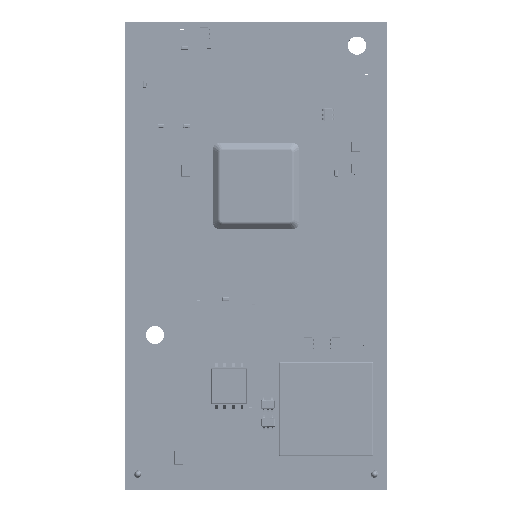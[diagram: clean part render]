
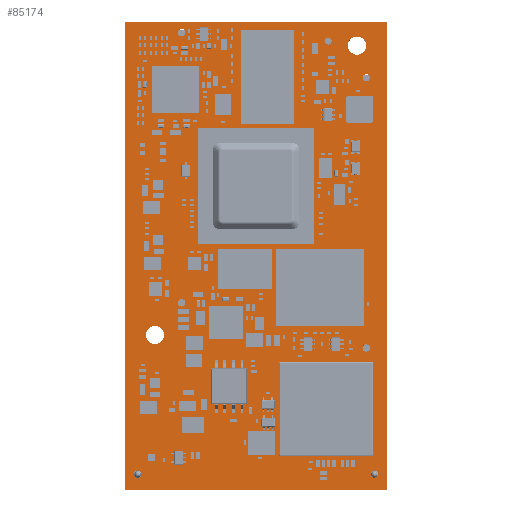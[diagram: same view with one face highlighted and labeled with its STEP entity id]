
A CAD part, top view. The second image highlights one B-rep face of the part: STEP entity #85174.
In plain terms, the highlighted planar face has unit normal (0, 0, 1).
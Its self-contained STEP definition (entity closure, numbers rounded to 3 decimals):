
#85174=ADVANCED_FACE('',(#163145,#163146,#163147,#163148,#163149,#163150,#163151,#163152,#163153),#163154,.T.);
#163145=FACE_OUTER_BOUND('',#266767,.T.);
#163146=FACE_BOUND('',#266768,.T.);
#163147=FACE_BOUND('',#266769,.T.);
#163148=FACE_BOUND('',#266770,.T.);
#163149=FACE_BOUND('',#266771,.T.);
#163150=FACE_BOUND('',#266772,.T.);
#163151=FACE_BOUND('',#266773,.T.);
#163152=FACE_BOUND('',#266774,.T.);
#163153=FACE_BOUND('',#266775,.T.);
#163154=PLANE('',#266776);
#266767=EDGE_LOOP('',(#440456,#440457,#440458,#440459));
#266768=EDGE_LOOP('',(#440460));
#266769=EDGE_LOOP('',(#440461));
#266770=EDGE_LOOP('',(#440462));
#266771=EDGE_LOOP('',(#440463));
#266772=EDGE_LOOP('',(#440464));
#266773=EDGE_LOOP('',(#440465));
#266774=EDGE_LOOP('',(#440466));
#266775=EDGE_LOOP('',(#440467));
#266776=AXIS2_PLACEMENT_3D('',#440468,#440469,#440470);
#440456=ORIENTED_EDGE('',*,*,#498036,.T.);
#440457=ORIENTED_EDGE('',*,*,#498037,.T.);
#440458=ORIENTED_EDGE('',*,*,#498038,.T.);
#440459=ORIENTED_EDGE('',*,*,#498039,.T.);
#440460=ORIENTED_EDGE('',*,*,#498040,.T.);
#440461=ORIENTED_EDGE('',*,*,#498041,.T.);
#440462=ORIENTED_EDGE('',*,*,#498042,.T.);
#440463=ORIENTED_EDGE('',*,*,#498043,.T.);
#440464=ORIENTED_EDGE('',*,*,#498044,.T.);
#440465=ORIENTED_EDGE('',*,*,#498045,.T.);
#440466=ORIENTED_EDGE('',*,*,#498034,.T.);
#440467=ORIENTED_EDGE('',*,*,#498031,.T.);
#440468=CARTESIAN_POINT('',(19.5,34.75,1.565));
#440469=DIRECTION('',(0.,0.,1.0));
#440470=DIRECTION('',(1.0,-0.0,0.));
#498031=EDGE_CURVE('',#580800,#580800,#580801,.T.);
#498034=EDGE_CURVE('',#580805,#580805,#580806,.T.);
#498036=EDGE_CURVE('',#580808,#580809,#580810,.T.);
#498037=EDGE_CURVE('',#580809,#580811,#580812,.T.);
#498038=EDGE_CURVE('',#580811,#580813,#580814,.T.);
#498039=EDGE_CURVE('',#580813,#580808,#580815,.T.);
#498040=EDGE_CURVE('',#580816,#580816,#580817,.T.);
#498041=EDGE_CURVE('',#580818,#580818,#580819,.T.);
#498042=EDGE_CURVE('',#580820,#580820,#580821,.T.);
#498043=EDGE_CURVE('',#580822,#580822,#580823,.T.);
#498044=EDGE_CURVE('',#580824,#580824,#580825,.T.);
#498045=EDGE_CURVE('',#580826,#580826,#580827,.T.);
#580800=VERTEX_POINT('',#696608);
#580801=CIRCLE('',#696609,1.35);
#580805=VERTEX_POINT('',#696613);
#580806=CIRCLE('',#696614,1.35);
#580808=VERTEX_POINT('',#696616);
#580809=VERTEX_POINT('',#696617);
#580810=LINE('',#696618,#696619);
#580811=VERTEX_POINT('',#696620);
#580812=LINE('',#696621,#696622);
#580813=VERTEX_POINT('',#696623);
#580814=LINE('',#696624,#696625);
#580815=LINE('',#696626,#696627);
#580816=VERTEX_POINT('',#696628);
#580817=CIRCLE('',#696629,0.55);
#580818=VERTEX_POINT('',#696630);
#580819=CIRCLE('',#696631,0.55);
#580820=VERTEX_POINT('',#696632);
#580821=CIRCLE('',#696633,0.55);
#580822=VERTEX_POINT('',#696634);
#580823=CIRCLE('',#696635,0.55);
#580824=VERTEX_POINT('',#696636);
#580825=CIRCLE('',#696637,0.55);
#580826=VERTEX_POINT('',#696638);
#580827=CIRCLE('',#696639,0.55);
#696608=CARTESIAN_POINT('',(33.15,66.0,1.565));
#696609=AXIS2_PLACEMENT_3D('',#748839,#748840,#748841);
#696613=CARTESIAN_POINT('',(3.15,23.0,1.565));
#696614=AXIS2_PLACEMENT_3D('',#748845,#748846,#748847);
#696616=CARTESIAN_POINT('',(0.,0.,1.565));
#696617=CARTESIAN_POINT('',(39.0,0.,1.565));
#696618=CARTESIAN_POINT('',(19.5,0.,1.565));
#696619=VECTOR('',#748848,1.0);
#696620=CARTESIAN_POINT('',(39.0,69.5,1.565));
#696621=CARTESIAN_POINT('',(39.0,34.75,1.565));
#696622=VECTOR('',#748849,1.0);
#696623=CARTESIAN_POINT('',(0.,69.5,1.565));
#696624=CARTESIAN_POINT('',(19.5,69.5,1.565));
#696625=VECTOR('',#748850,1.0);
#696626=CARTESIAN_POINT('',(0.,34.75,1.565));
#696627=VECTOR('',#748851,1.0);
#696628=CARTESIAN_POINT('',(35.867,21.637,1.565));
#696629=AXIS2_PLACEMENT_3D('',#748852,#748853,#748854);
#696630=CARTESIAN_POINT('',(35.867,61.763,1.565));
#696631=AXIS2_PLACEMENT_3D('',#748855,#748856,#748857);
#696632=CARTESIAN_POINT('',(8.466,68.463,1.565));
#696633=AXIS2_PLACEMENT_3D('',#748858,#748859,#748860);
#696634=CARTESIAN_POINT('',(8.466,28.337,1.565));
#696635=AXIS2_PLACEMENT_3D('',#748861,#748862,#748863);
#696636=CARTESIAN_POINT('',(1.937,2.898,1.565));
#696637=AXIS2_PLACEMENT_3D('',#748864,#748865,#748866);
#696638=CARTESIAN_POINT('',(37.063,2.898,1.565));
#696639=AXIS2_PLACEMENT_3D('',#748867,#748868,#748869);
#748839=CARTESIAN_POINT('',(34.5,66.0,1.565));
#748840=DIRECTION('',(0.,0.,-1.0));
#748841=DIRECTION('',(1.0,0.,0.));
#748845=CARTESIAN_POINT('',(4.5,23.0,1.565));
#748846=DIRECTION('',(0.,0.,-1.0));
#748847=DIRECTION('',(1.0,0.,0.));
#748848=DIRECTION('',(1.0,0.0,0.0));
#748849=DIRECTION('',(0.0,1.0,0.0));
#748850=DIRECTION('',(-1.0,0.0,0.0));
#748851=DIRECTION('',(0.0,-1.0,0.0));
#748852=CARTESIAN_POINT('',(35.867,21.087,1.565));
#748853=DIRECTION('',(0.,0.,-1.0));
#748854=DIRECTION('',(0.,1.0,0.));
#748855=CARTESIAN_POINT('',(35.867,61.213,1.565));
#748856=DIRECTION('',(0.,0.,-1.0));
#748857=DIRECTION('',(0.,1.0,0.));
#748858=CARTESIAN_POINT('',(8.466,67.913,1.565));
#748859=DIRECTION('',(0.,0.,-1.0));
#748860=DIRECTION('',(0.,1.0,0.));
#748861=CARTESIAN_POINT('',(8.466,27.787,1.565));
#748862=DIRECTION('',(0.,0.,-1.0));
#748863=DIRECTION('',(0.,1.0,0.));
#748864=CARTESIAN_POINT('',(1.937,2.348,1.565));
#748865=DIRECTION('',(0.,0.,-1.0));
#748866=DIRECTION('',(0.,1.0,0.));
#748867=CARTESIAN_POINT('',(37.063,2.348,1.565));
#748868=DIRECTION('',(0.,0.,-1.0));
#748869=DIRECTION('',(0.,1.0,0.));
